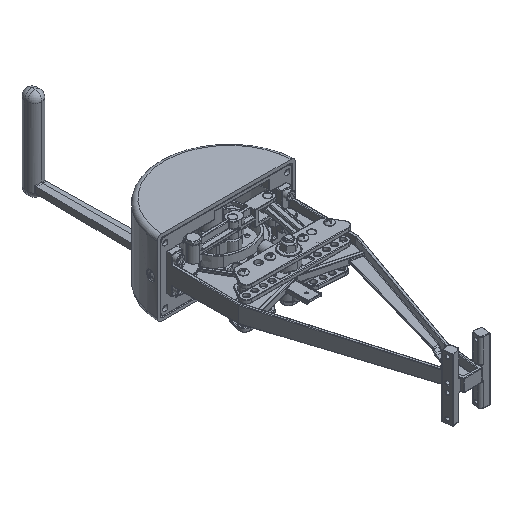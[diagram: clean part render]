
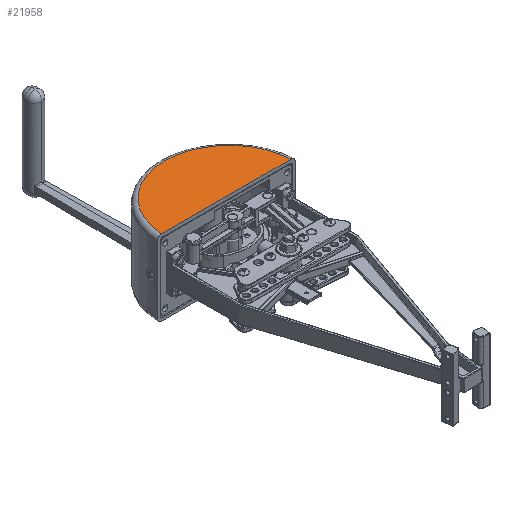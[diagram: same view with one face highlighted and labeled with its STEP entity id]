
A CAD part, isometric view. The second image highlights one B-rep face of the part: STEP entity #21958.
In plain terms, the highlighted planar face has unit normal (0, 0, 1).
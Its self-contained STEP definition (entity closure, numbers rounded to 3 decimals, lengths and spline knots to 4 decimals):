
#305 = EDGE_LOOP ( 'NONE', ( #5759, #3123 ) ) ;
#3123 = ORIENTED_EDGE ( 'NONE', *, *, #61050, .T. ) ;
#5004 = CIRCLE ( 'NONE', #39724, 2.8529 ) ;
#5759 = ORIENTED_EDGE ( 'NONE', *, *, #48353, .F. ) ;
#10770 = CARTESIAN_POINT ( 'NONE',  ( -2.8498, 0., 1.67 ) ) ;
#14504 = DIRECTION ( 'NONE',  ( -1., 0., 0. ) ) ;
#16756 = CARTESIAN_POINT ( 'NONE',  ( 2.8498, 0., 1.67 ) ) ;
#19310 = VERTEX_POINT ( 'NONE', #16756 ) ;
#20903 = AXIS2_PLACEMENT_3D ( 'NONE', #42317, #29816, #51246 ) ;
#21958 = ADVANCED_FACE ( 'NONE', ( #67348 ), #37400, .T. ) ;
#29816 = DIRECTION ( 'NONE',  ( 0., 0., 1. ) ) ;
#33800 = DIRECTION ( 'NONE',  ( 1., 0., 0. ) ) ;
#36219 = CARTESIAN_POINT ( 'NONE',  ( 3.05, 0., 1.67 ) ) ;
#37400 = PLANE ( 'NONE',  #20903 ) ;
#39724 = AXIS2_PLACEMENT_3D ( 'NONE', #66114, #50006, #33800 ) ;
#40624 = VERTEX_POINT ( 'NONE', #10770 ) ;
#42317 = CARTESIAN_POINT ( 'NONE',  ( 0., -0.1329, 1.67 ) ) ;
#48353 = EDGE_CURVE ( 'NONE', #19310, #40624, #51377, .T. ) ;
#50006 = DIRECTION ( 'NONE',  ( 0., 0., 1. ) ) ;
#51246 = DIRECTION ( 'NONE',  ( 1., 0., 0. ) ) ;
#51377 = LINE ( 'NONE', #36219, #55633 ) ;
#55633 = VECTOR ( 'NONE', #14504, 39.3701 ) ;
#61050 = EDGE_CURVE ( 'NONE', #19310, #40624, #5004, .T. ) ;
#66114 = CARTESIAN_POINT ( 'NONE',  ( 0., -0.1329, 1.67 ) ) ;
#67348 = FACE_OUTER_BOUND ( 'NONE', #305, .T. ) ;
